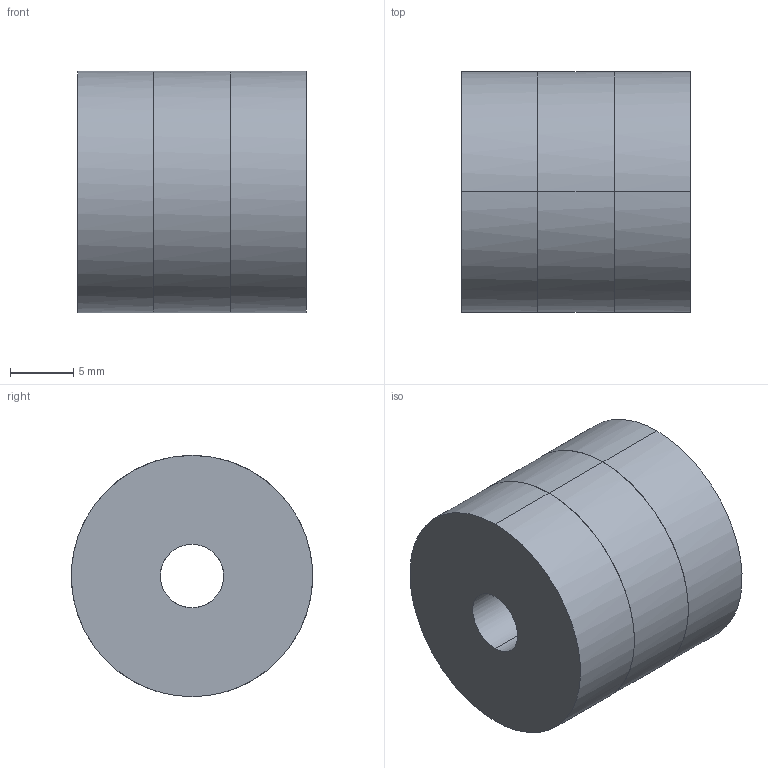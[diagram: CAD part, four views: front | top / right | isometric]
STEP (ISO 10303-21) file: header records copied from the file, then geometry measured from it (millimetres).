
FILE_DESCRIPTION(/* description */ (''),/* implementation_level */ '2;1');
FILE_NAME(/* name */ '6.y-drive#6.14#B635ZZ',/* time_stamp */ '2014-12-01T20:17:00+01:00',/* author */ (''),/* organization */ (''),/* preprocessor_version */ 'ST-DEVELOPER v14',/* originating_system */ '',/* authorisation */ '');
FILE_SCHEMA (('AUTOMOTIVE_DESIGN'));
Length unit declared in the file: millimetre
Products named in the file (1): Document
Bounding box: 18 x 18.97 x 19 mm (x, y, z)
Volume: 4759.7 mm3; surface area: 2940.8 mm2
Topology: 3 solids, 3 shells, 18 faces, 36 edges, 24 vertices
Faces by surface type: bspline 12, plane 6
Entity records: 1108 total; most frequent: CARTESIAN_POINT 607, ORIENTED_EDGE 72, PCURVE 72, DEFINITIONAL_REPRESENTATION 72, B_SPLINE_CURVE_WITH_KNOTS 48, SURFACE_CURVE 36, EDGE_CURVE 36, EDGE_LOOP 24
